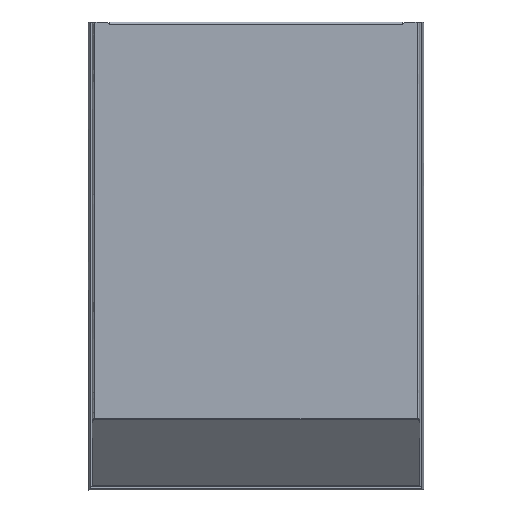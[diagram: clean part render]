
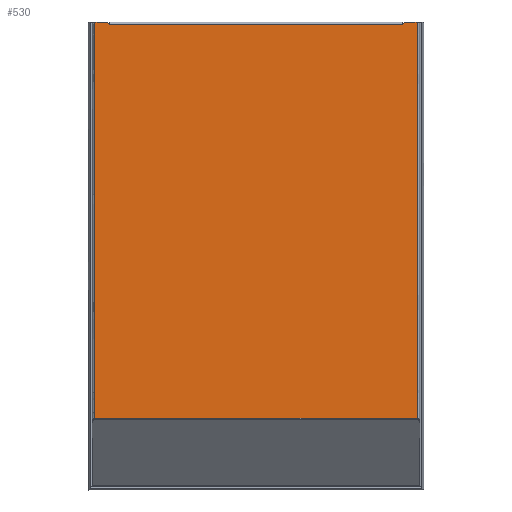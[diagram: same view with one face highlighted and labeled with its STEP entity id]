
A CAD part, front view. The second image highlights one B-rep face of the part: STEP entity #530.
In plain terms, the highlighted planar face has unit normal (0, -1, 0).
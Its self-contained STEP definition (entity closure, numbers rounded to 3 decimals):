
#530=ADVANCED_FACE('',(#1068),#8286,.T.);
#1068=FACE_OUTER_BOUND('',#1634,.T.);
#1634=EDGE_LOOP('',(#3930,#3931,#3932,#3933,#3934,#3935,#3936,#3937));
#3930=ORIENTED_EDGE('',*,*,#5588,.T.);
#3931=ORIENTED_EDGE('',*,*,#5595,.T.);
#3932=ORIENTED_EDGE('',*,*,#5589,.T.);
#3933=ORIENTED_EDGE('',*,*,#5590,.T.);
#3934=ORIENTED_EDGE('',*,*,#5591,.T.);
#3935=ORIENTED_EDGE('',*,*,#5592,.T.);
#3936=ORIENTED_EDGE('',*,*,#5593,.T.);
#3937=ORIENTED_EDGE('',*,*,#5602,.T.);
#5588=EDGE_CURVE('',#7983,#7984,#6604,.T.);
#5589=EDGE_CURVE('',#7985,#7986,#6605,.T.);
#5590=EDGE_CURVE('',#7986,#7987,#6606,.T.);
#5591=EDGE_CURVE('',#7987,#7988,#6607,.T.);
#5592=EDGE_CURVE('',#7988,#7989,#6608,.T.);
#5593=EDGE_CURVE('',#7989,#7990,#6609,.T.);
#5595=EDGE_CURVE('',#7984,#7985,#6611,.T.);
#5602=EDGE_CURVE('',#7990,#7983,#6616,.T.);
#6604=B_SPLINE_CURVE_WITH_KNOTS('',1,(#19993,#19994),.UNSPECIFIED.,.F.,.F.,
(2,2),(0.,209.),.UNSPECIFIED.);
#6605=B_SPLINE_CURVE_WITH_KNOTS('',1,(#19995,#19996),.UNSPECIFIED.,.F.,.F.,
(2,2),(0.,8.961),.UNSPECIFIED.);
#6606=B_SPLINE_CURVE_WITH_KNOTS('',1,(#19997,#19998),.UNSPECIFIED.,.F.,.F.,
(2,2),(0.,281.696),.UNSPECIFIED.);
#6607=B_SPLINE_CURVE_WITH_KNOTS('',1,(#19999,#20000),.UNSPECIFIED.,.F.,.F.,
(2,2),(0.,229.035),.UNSPECIFIED.);
#6608=B_SPLINE_CURVE_WITH_KNOTS('',1,(#20001,#20002),.UNSPECIFIED.,.F.,.F.,
(2,2),(0.,281.675),.UNSPECIFIED.);
#6609=B_SPLINE_CURVE_WITH_KNOTS('',1,(#20003,#20004),.UNSPECIFIED.,.F.,.F.,
(2,2),(0.,8.961),.UNSPECIFIED.);
#6611=B_SPLINE_CURVE_WITH_KNOTS('',1,(#20007,#20008),.UNSPECIFIED.,.F.,.F.,
(2,2),(0.,2.078),.UNSPECIFIED.);
#6616=B_SPLINE_CURVE_WITH_KNOTS('',1,(#20023,#20024),.UNSPECIFIED.,.F.,.F.,
(2,2),(0.,2.078),.UNSPECIFIED.);
#7983=VERTEX_POINT('',#19855);
#7984=VERTEX_POINT('',#19856);
#7985=VERTEX_POINT('',#19857);
#7986=VERTEX_POINT('',#19858);
#7987=VERTEX_POINT('',#19859);
#7988=VERTEX_POINT('',#19860);
#7989=VERTEX_POINT('',#19861);
#7990=VERTEX_POINT('',#19862);
#8286=PLANE('',#8900);
#8900=AXIS2_PLACEMENT_3D('',#19185,#9111,$);
#9111=DIRECTION('',(0.,-1.,0.));
#19185=CARTESIAN_POINT('',(-137.44,-55.,28.171));
#19855=CARTESIAN_POINT('',(104.5,-55.,-1.8));
#19856=CARTESIAN_POINT('',(-104.5,-55.,-1.8));
#19857=CARTESIAN_POINT('',(-105.539,-55.,0.));
#19858=CARTESIAN_POINT('',(-114.5,-55.,0.));
#19859=CARTESIAN_POINT('',(-114.535,-55.,-281.696));
#19860=CARTESIAN_POINT('',(114.5,-55.,-281.675));
#19861=CARTESIAN_POINT('',(114.5,-55.,0.));
#19862=CARTESIAN_POINT('',(105.539,-55.,0.));
#19993=CARTESIAN_POINT('',(104.5,-55.,-1.8));
#19994=CARTESIAN_POINT('',(-104.5,-55.,-1.8));
#19995=CARTESIAN_POINT('',(-105.539,-55.,0.));
#19996=CARTESIAN_POINT('',(-114.5,-55.,0.));
#19997=CARTESIAN_POINT('',(-114.5,-55.,0.));
#19998=CARTESIAN_POINT('',(-114.535,-55.,-281.696));
#19999=CARTESIAN_POINT('',(-114.535,-55.,-281.696));
#20000=CARTESIAN_POINT('',(114.5,-55.,-281.675));
#20001=CARTESIAN_POINT('',(114.5,-55.,-281.675));
#20002=CARTESIAN_POINT('',(114.5,-55.,0.));
#20003=CARTESIAN_POINT('',(114.5,-55.,0.));
#20004=CARTESIAN_POINT('',(105.539,-55.,0.));
#20007=CARTESIAN_POINT('',(-104.5,-55.,-1.8));
#20008=CARTESIAN_POINT('',(-105.539,-55.,0.));
#20023=CARTESIAN_POINT('',(105.539,-55.,0.));
#20024=CARTESIAN_POINT('',(104.5,-55.,-1.8));
